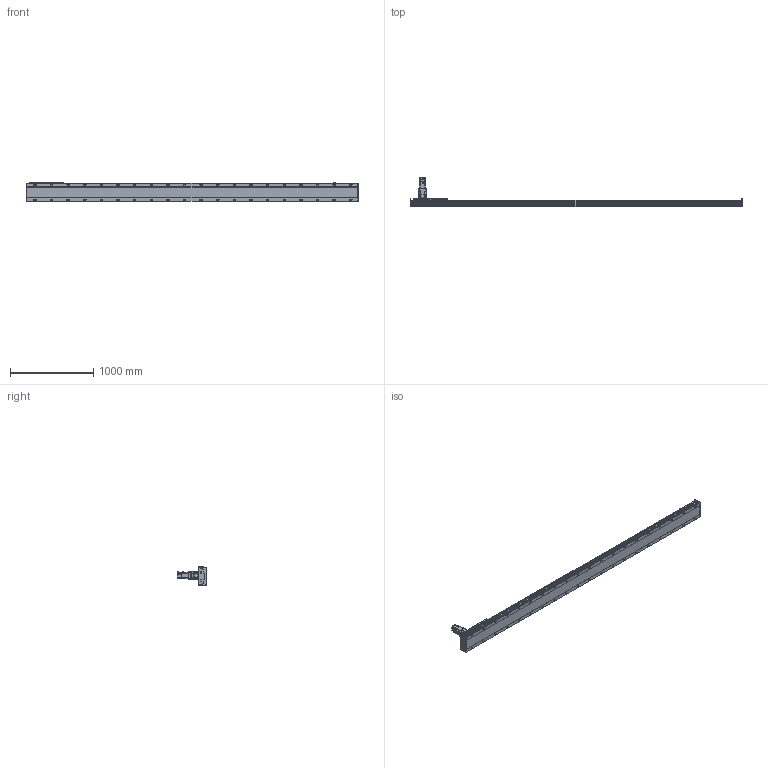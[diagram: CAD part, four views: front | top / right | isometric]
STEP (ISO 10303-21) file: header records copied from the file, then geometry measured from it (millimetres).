
FILE_DESCRIPTION(/* description */ ('STEP AP214'),/* implementation_level */ '2;1');
FILE_NAME(/* name */ 'SHS22A-L13-S3500-BC-T75-C1-N(0)',/* time_stamp */ '2022-06-15T02:28:15+02:00',/* author */ ('License CC BY-ND 4.0'),/* organization */ ('CADENAS'),/* preprocessor_version */ 'ST-DEVELOPER v18.102',/* originating_system */ 'PARTsolutions',/* authorisation */ ' ');
FILE_SCHEMA (('AUTOMOTIVE_DESIGN {1 0 10303 214 3 1 1}'));
Length unit declared in the file: millimetre
Products named in the file (7): SHS22A-L13-S3500-BC-T75-C1-N(0); PSC140-sensor; SHS22A-S3500_body2; T75-p1; SHS22A-S3500_body3; SHS22A-S3500_slider; SHS22A-L13-S3500-BC-T75-C1(0)_body
Assembly tree (13 placements, depth 2):
  SHS22A-L13-S3500-BC-T75-C1-N(0)
    PSC140-sensor  x3
    SHS22A-S3500_body2  x6
    T75-p1
    SHS22A-S3500_body3
    SHS22A-S3500_slider
    SHS22A-L13-S3500-BC-T75-C1(0)_body
Bounding box: 3994 x 350.8 x 238.4 mm (x, y, z)
Volume: 43075989.4 mm3; surface area: 4417005.2 mm2
Topology: 13 solids, 13 shells, 1941 faces, 4975 edges, 3256 vertices
Faces by surface type: plane 1360, cylinder 467, cone 105, torus 9
Full cylindrical faces by diameter (mm): 2.8 x3, 4.2 x2, 4.6 x3, 4.917 x4, 5 x4, 5.6 x24, 6 x31, 6.6 x24, 6.647 x8, 6.8 x9, 7.75 x6, 8 x3, 8.376 x40, 8.5 x40, 10 x4, 11 x4, 12 x24, 14 x40, 22 x1, 24.1 x1, 28 x1, 28.2 x1, 28.8 x1, 48.542 x1, 68 x1, 70 x1, 78 x1, 80 x2
Entity records: 32842 total; most frequent: CARTESIAN_POINT 5933, DIRECTION 5567, ORIENTED_EDGE 4980, EDGE_CURVE 2490, AXIS2_PLACEMENT_3D 1992, VERTEX_POINT 1806, FACE_BOUND 1760, EDGE_LOOP 1759
